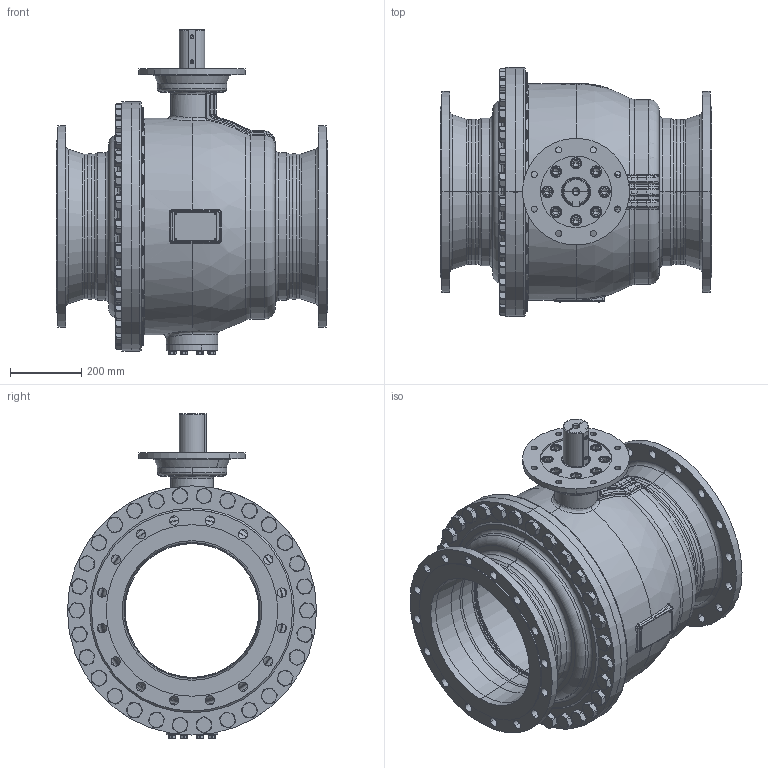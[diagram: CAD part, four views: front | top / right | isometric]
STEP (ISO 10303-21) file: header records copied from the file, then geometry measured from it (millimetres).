
FILE_DESCRIPTION((''),'2;1');
FILE_NAME('KHI-F_400_PN010-F25-P_SW0001','2026-02-05T16:12:11',('fischerkl'),('KLINGER'),'CREO PARAMETRIC BY PTC INC, 2023014','CREO PARAMETRIC BY PTC INC, 2023014','');
FILE_SCHEMA(('CONFIG_CONTROL_DESIGN'));
Products named in the file (1): KHI-F_400_PN010-F25-P_SW0001
Bounding box: 762 x 700 x 911.3 mm (x, y, z)
Volume: 51042580.1 mm3; surface area: 6699932.4 mm2
Topology: 1 solids, 4 shells, 3581 faces, 9022 edges, 5636 vertices
Faces by surface type: plane 1771, cylinder 861, cone 508, torus 311, bspline 99, sphere 31
Entity records: 153316 total; most frequent: CARTESIAN_POINT 68071, ORIENTED_EDGE 17992, DIRECTION 17656, EDGE_CURVE 8996, AXIS2_PLACEMENT_3D 6778, VERTEX_POINT 5636, VECTOR 4100, LINE 4100
